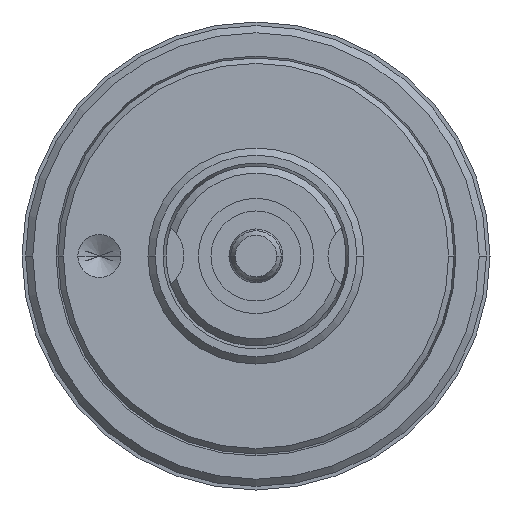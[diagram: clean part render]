
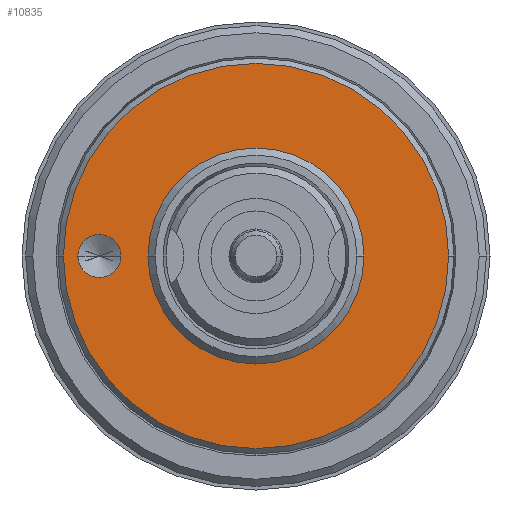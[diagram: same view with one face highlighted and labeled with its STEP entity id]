
A CAD part, left-side view. The second image highlights one B-rep face of the part: STEP entity #10835.
In plain terms, the highlighted planar face has unit normal (-1, 0, 0).
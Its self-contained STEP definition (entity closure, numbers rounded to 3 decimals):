
#5034=CARTESIAN_POINT('',(0.,0.,0.));
#5035=DIRECTION('',(-1.,0.,0.));
#5036=DIRECTION('',(0.,1.,0.));
#5037=AXIS2_PLACEMENT_3D('',#5034,#5035,#5036);
#5042=CARTESIAN_POINT('',(0.,0.,0.));
#5043=DIRECTION('',(-1.,0.,0.));
#5044=DIRECTION('',(0.,-1.,0.));
#5045=AXIS2_PLACEMENT_3D('',#5042,#5043,#5044);
#5050=CARTESIAN_POINT('',(0.,4.35,0.));
#5051=DIRECTION('',(-1.,0.,0.));
#5052=DIRECTION('',(0.,1.,0.));
#5053=AXIS2_PLACEMENT_3D('',#5050,#5051,#5052);
#5058=CARTESIAN_POINT('',(0.,4.35,0.));
#5059=DIRECTION('',(-1.,0.,0.));
#5060=DIRECTION('',(0.,-1.,0.));
#5061=AXIS2_PLACEMENT_3D('',#5058,#5059,#5060);
#5081=CARTESIAN_POINT('',(0.,0.,0.));
#5082=DIRECTION('',(1.,0.,0.));
#5083=DIRECTION('',(0.,1.,0.));
#5084=AXIS2_PLACEMENT_3D('',#5081,#5082,#5083);
#5150=CARTESIAN_POINT('',(0.,0.,0.));
#5151=DIRECTION('',(-1.,0.,0.));
#5152=DIRECTION('',(0.,1.,0.));
#5153=AXIS2_PLACEMENT_3D('',#5150,#5151,#5152);
#5937=CARTESIAN_POINT('',(0.,3.,0.));
#5938=CARTESIAN_POINT('',(0.,-3.,0.));
#5939=VERTEX_POINT('',#5937);
#5940=VERTEX_POINT('',#5938);
#5947=CARTESIAN_POINT('',(0.,4.95,0.));
#5948=CARTESIAN_POINT('',(0.,3.75,0.));
#5949=VERTEX_POINT('',#5947);
#5950=VERTEX_POINT('',#5948);
#5967=CARTESIAN_POINT('',(0.,5.35,0.));
#5968=CARTESIAN_POINT('',(0.,-5.35,0.));
#5969=VERTEX_POINT('',#5967);
#5970=VERTEX_POINT('',#5968);
#10813=CARTESIAN_POINT('',(0.,0.,0.));
#10814=DIRECTION('',(1.,0.,0.));
#10815=DIRECTION('',(0.,-1.,0.));
#10816=AXIS2_PLACEMENT_3D('',#10813,#10814,#10815);
#10817=PLANE('',#10816);
#10819=ORIENTED_EDGE('',*,*,#10818,.F.);
#10820=ORIENTED_EDGE('',*,*,#10803,.F.);
#10821=EDGE_LOOP('',(#10819,#10820));
#10822=FACE_OUTER_BOUND('',#10821,.F.);
#10824=ORIENTED_EDGE('',*,*,#10823,.F.);
#10826=ORIENTED_EDGE('',*,*,#10825,.T.);
#10827=EDGE_LOOP('',(#10824,#10826));
#10828=FACE_BOUND('',#10827,.F.);
#10830=ORIENTED_EDGE('',*,*,#10829,.T.);
#10832=ORIENTED_EDGE('',*,*,#10831,.T.);
#10833=EDGE_LOOP('',(#10830,#10832));
#10834=FACE_BOUND('',#10833,.F.);
#10835=ADVANCED_FACE('',(#10822,#10828,#10834),#10817,.F.);
#5038=CIRCLE('',#5037,5.35);
#5046=CIRCLE('',#5045,5.35);
#5054=CIRCLE('',#5053,0.6);
#5062=CIRCLE('',#5061,0.6);
#5085=CIRCLE('',#5084,3.);
#5154=CIRCLE('',#5153,3.);
#10803=EDGE_CURVE('',#5970,#5969,#5046,.T.);
#10818=EDGE_CURVE('',#5969,#5970,#5038,.T.);
#10823=EDGE_CURVE('',#5939,#5940,#5085,.T.);
#10825=EDGE_CURVE('',#5939,#5940,#5154,.T.);
#10829=EDGE_CURVE('',#5949,#5950,#5054,.T.);
#10831=EDGE_CURVE('',#5950,#5949,#5062,.T.);
